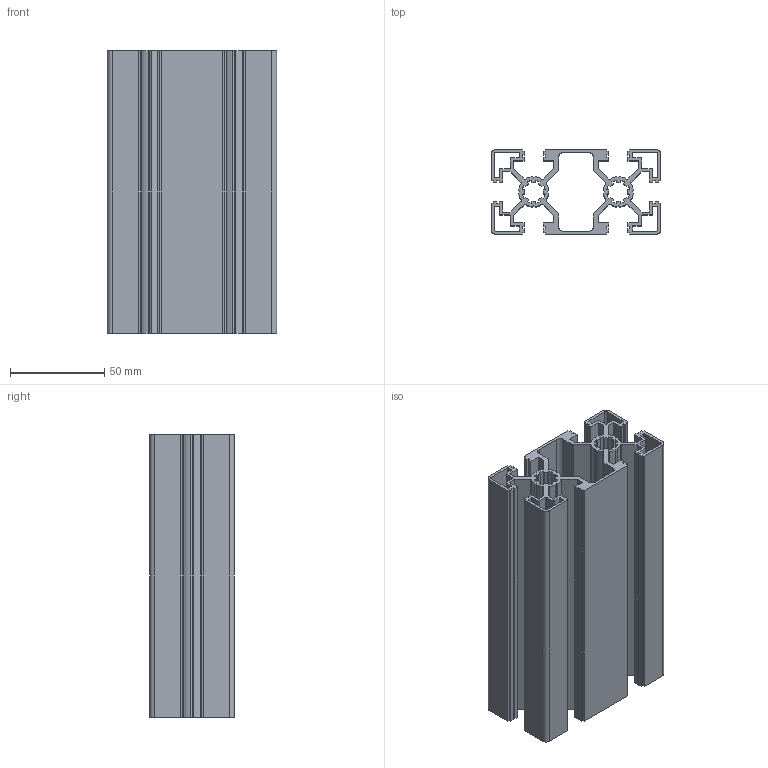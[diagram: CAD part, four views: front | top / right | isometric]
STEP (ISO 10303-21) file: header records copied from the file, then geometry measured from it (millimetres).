
FILE_DESCRIPTION((''),'2;1');
FILE_NAME('E:\catalogue and flyer\Profile catalogue 2015\profile-step file,31MAr16\PS4590L-10.stp','2016-03-31T14:17:40',('h029'),(''),'Autodesk Inventor 11','Autodesk Inventor 11','');
FILE_SCHEMA(('AUTOMOTIVE_DESIGN { 1 0 10303 214 1 1 1 1 }'));
Length unit declared in the file: millimetre
Products named in the file (1): PS4590L-10
Bounding box: 90 x 45 x 150 mm (x, y, z)
Volume: 156387.9 mm3; surface area: 155586.5 mm2
Topology: 1 solids, 1 shells, 330 faces, 984 edges, 656 vertices
Faces by surface type: plane 222, cylinder 108
Entity records: 11115 total; most frequent: CARTESIAN_POINT 1971, ORIENTED_EDGE 1968, DIRECTION 1862, EDGE_CURVE 984, VECTOR 768, LINE 768, VERTEX_POINT 656, AXIS2_PLACEMENT_3D 547
